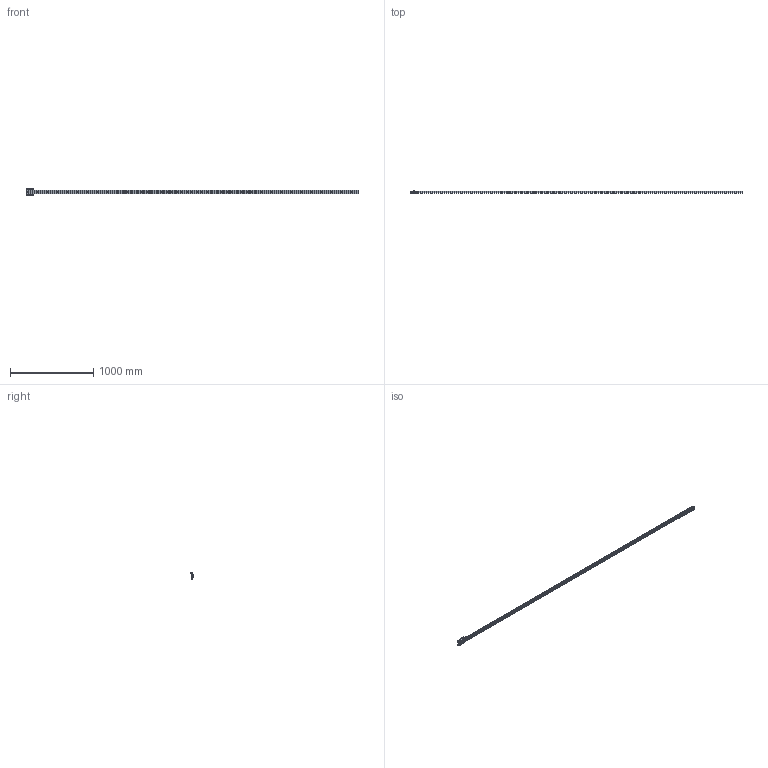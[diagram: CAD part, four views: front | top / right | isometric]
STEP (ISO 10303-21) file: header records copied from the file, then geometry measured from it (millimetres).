
FILE_DESCRIPTION( ( 'STEP AP203' ), '1' );
FILE_NAME( 'p:/temp/worker_9/temp/exporttempdir_1712_539_AauYU/format_0/FDI20 84442NV_4000-0-0.stp', '2021-02-04T02:09:34', ( 'License CC BY-ND 4.0' ), ( 'CADENAS' ), ' ', 'PARTsolutions', ' ' );
FILE_SCHEMA( ( 'CONFIG_CONTROL_DESIGN' ) );
Length unit declared in the file: millimetre
Products named in the file (5): FDI20 84442NV_4000-0-0; _FDI_20R 4000-0-0; _FDI_20R Slider_1; _FDI_20R 4000-0-0_2; _FDI_20R Slider_2
Assembly tree (4 placements, depth 2):
  FDI20 84442NV_4000-0-0
    _FDI_20R 4000-0-0
    _FDI_20R Slider_1
    _FDI_20R 4000-0-0_2
    _FDI_20R Slider_2
Bounding box: 4000 x 28 x 81.8 mm (x, y, z)
Volume: 3129132.6 mm3; surface area: 839274.7 mm2
Topology: 4 solids, 4 shells, 635 faces, 1616 edges, 1117 vertices
Faces by surface type: cylinder 309, plane 302, cone 24
Full cylindrical faces by diameter (mm): 4.134 x8, 4.917 x4, 5.5 x134, 10 x135
Entity records: 17429 total; most frequent: DIRECTION 3061, CARTESIAN_POINT 2871, ORIENTED_EDGE 2312, EDGE_LOOP 1342, AXIS2_PLACEMENT_3D 1292, EDGE_CURVE 1156, VERTEX_POINT 968, FACE_OUTER_BOUND 916
